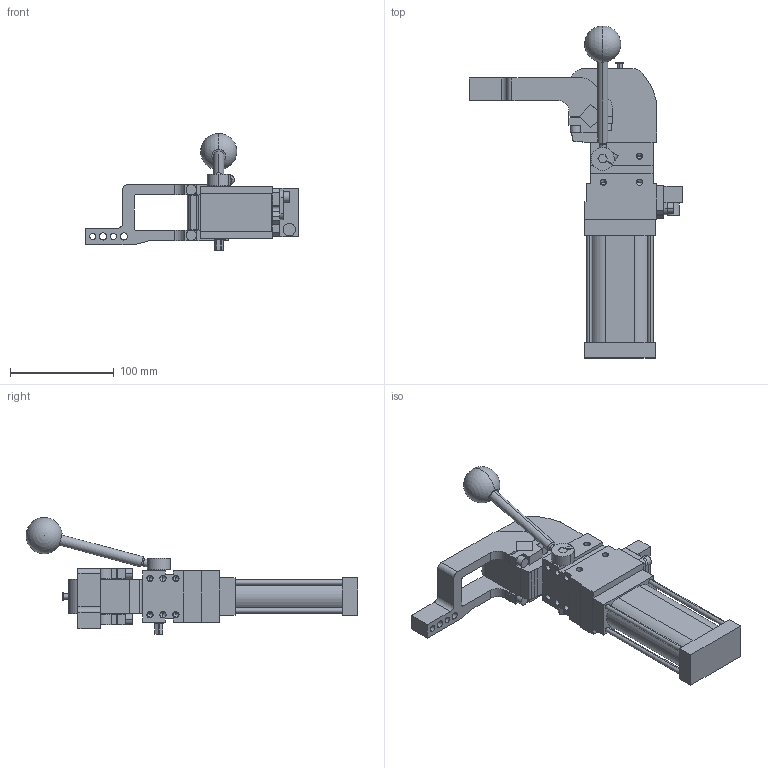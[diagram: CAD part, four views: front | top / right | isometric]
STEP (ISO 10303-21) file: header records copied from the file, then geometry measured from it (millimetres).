
FILE_DESCRIPTION (( 'STEP AP214' ), '1' );
FILE_NAME ('cplm40lav1di1g_108.STEP', '2021-05-25T11:56:24', ( '' ), ( '' ), 'SwSTEP 2.0', 'SolidWorks 2021', '' );
FILE_SCHEMA (( 'AUTOMOTIVE_DESIGN' ));
Length unit declared in the file: millimetre
Products named in the file (6): leva_v1d_cpl40; comando_manuale_cplm_40; meccanica_cplm40; blocchetto_VEP_0_cpl40; piastra_blocchetto_cpl40; cplm40lav1di1g_108
Assembly tree (5 placements, depth 2):
  cplm40lav1di1g_108
    meccanica_cplm40
    leva_v1d_cpl40
    blocchetto_VEP_0_cpl40
    piastra_blocchetto_cpl40
    comando_manuale_cplm_40
Bounding box: 205.5 x 319.99 x 112.66 mm (x, y, z)
Volume: 808327.5 mm3; surface area: 126749 mm2
Topology: 6 solids, 6 shells, 467 faces, 1201 edges, 757 vertices
Faces by surface type: plane 259, cylinder 160, cone 46, sphere 2
Entity records: 15517 total; most frequent: CARTESIAN_POINT 2501, DIRECTION 2476, ORIENTED_EDGE 2308, EDGE_CURVE 1154, AXIS2_PLACEMENT_3D 851, VECTOR 774, LINE 774, VERTEX_POINT 754
